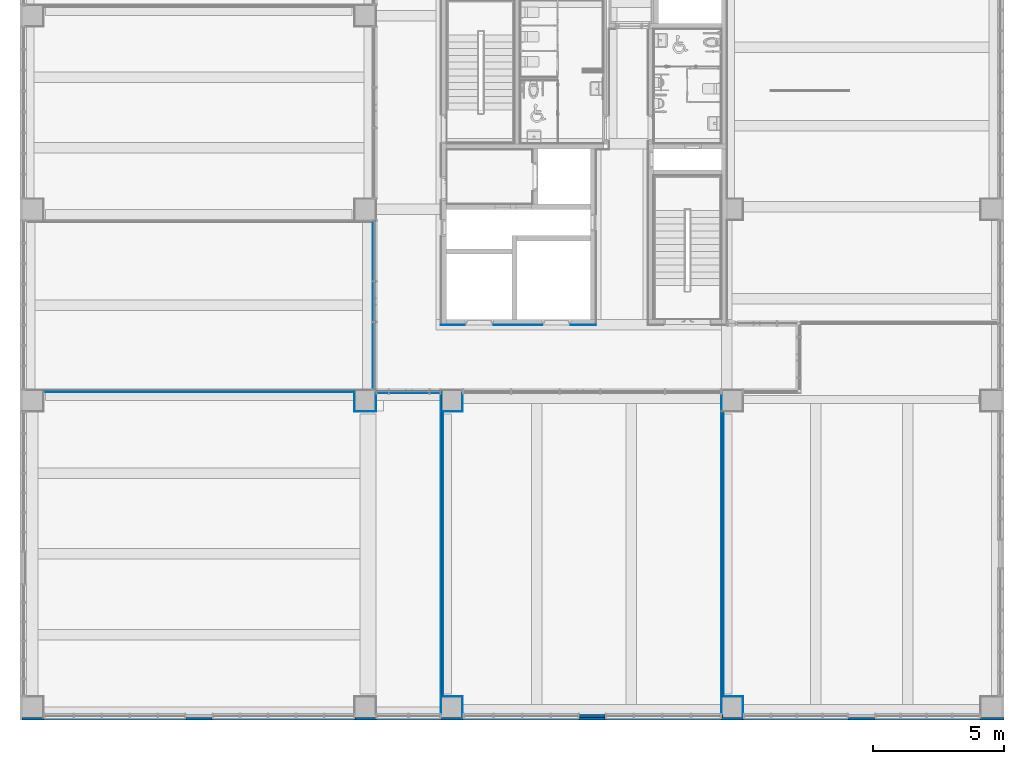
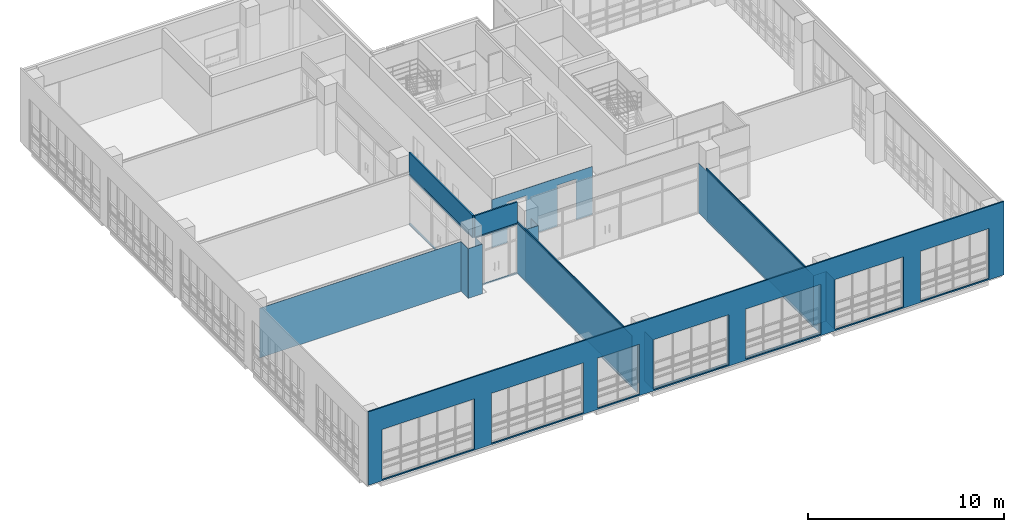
# One storey, part 46 of 74: 23 walls, 23 openings.
"""IFC2X3 building model written with IfcOpenShell, lengths in millimetres."""

from ifc_helpers import new_model, entity, si_unit, converted_unit, derived_unit, direction, frame, frame_2d, origin, origin_2d_with_axis, place, context, subcontext, project, spatial, polyline, rectangle, extrude, clip, bounded_halfspace, material, layer, layer_set, layer_usage, type_object, element, save


model = new_model("IFC2X3")

# Units and contexts
model_context = context("Model", 3, precision=0.01, world=origin(), true_north=direction((6.123031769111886e-17, 1.0)))
body_context = subcontext(model_context, "Body", "Model", "MODEL_VIEW")
ifc_project = project(units=[si_unit("LENGTHUNIT", "METRE", prefix="MILLI"), si_unit("AREAUNIT", "SQUARE_METRE"), si_unit("VOLUMEUNIT", "CUBIC_METRE"), converted_unit("PLANEANGLEUNIT", "DEGREE", entity("IfcRatioMeasure", 0.017453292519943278), si_unit("PLANEANGLEUNIT", "RADIAN"), dimensions=[0, 0, 0, 0, 0, 0, 0]), si_unit("MASSUNIT", "GRAM", prefix="KILO"), derived_unit("MASSDENSITYUNIT", [(si_unit("MASSUNIT", "GRAM", prefix="KILO"), 1), (si_unit("LENGTHUNIT", "METRE"), -3)]), derived_unit("MOMENTOFINERTIAUNIT", [(si_unit("LENGTHUNIT", "METRE"), 4)]), si_unit("TIMEUNIT", "SECOND"), si_unit("FREQUENCYUNIT", "HERTZ"), si_unit("THERMODYNAMICTEMPERATUREUNIT", "DEGREE_CELSIUS"), derived_unit("THERMALTRANSMITTANCEUNIT", [(si_unit("MASSUNIT", "GRAM", prefix="KILO"), 1), (si_unit("THERMODYNAMICTEMPERATUREUNIT", "KELVIN"), -1), (si_unit("TIMEUNIT", "SECOND"), -3)]), derived_unit("VOLUMETRICFLOWRATEUNIT", [(si_unit("LENGTHUNIT", "METRE"), 3), (si_unit("TIMEUNIT", "SECOND"), -1)]), derived_unit("MASSFLOWRATEUNIT", [(si_unit("MASSUNIT", "GRAM", prefix="KILO"), 1), (si_unit("TIMEUNIT", "SECOND"), -1)]), derived_unit("ROTATIONALFREQUENCYUNIT", [(si_unit("TIMEUNIT", "SECOND"), -1)]), si_unit("ELECTRICCURRENTUNIT", "AMPERE"), si_unit("ELECTRICVOLTAGEUNIT", "VOLT"), si_unit("POWERUNIT", "WATT"), si_unit("FORCEUNIT", "NEWTON", prefix="KILO"), si_unit("ILLUMINANCEUNIT", "LUX"), si_unit("LUMINOUSFLUXUNIT", "LUMEN"), si_unit("LUMINOUSINTENSITYUNIT", "CANDELA"), derived_unit("USERDEFINED", [(si_unit("MASSUNIT", "GRAM", prefix="KILO"), -1), (si_unit("LENGTHUNIT", "METRE"), -2), (si_unit("TIMEUNIT", "SECOND"), 3), (si_unit("LUMINOUSFLUXUNIT", "LUMEN"), 1)]), derived_unit("SOUNDPOWERUNIT", [(si_unit("MASSUNIT", "GRAM", prefix="KILO"), 1), (si_unit("LENGTHUNIT", "METRE"), 2), (si_unit("TIMEUNIT", "SECOND"), -3)]), derived_unit("SOUNDPRESSUREUNIT", [(si_unit("MASSUNIT", "GRAM", prefix="KILO"), 1), (si_unit("LENGTHUNIT", "METRE"), -1), (si_unit("TIMEUNIT", "SECOND"), -2)]), derived_unit("LINEARVELOCITYUNIT", [(si_unit("LENGTHUNIT", "METRE"), 1), (si_unit("TIMEUNIT", "SECOND"), -1)]), si_unit("PRESSUREUNIT", "PASCAL"), derived_unit("USERDEFINED", [(si_unit("LENGTHUNIT", "METRE"), -2), (si_unit("MASSUNIT", "GRAM", prefix="KILO"), 1), (si_unit("TIMEUNIT", "SECOND"), -2)]), derived_unit("LINEARFORCEUNIT", [(si_unit("MASSUNIT", "GRAM", prefix="KILO"), 1), (si_unit("LENGTHUNIT", "METRE"), 1), (si_unit("TIMEUNIT", "SECOND"), -2), (si_unit("LENGTHUNIT", "METRE"), -1)]), derived_unit("PLANARFORCEUNIT", [(si_unit("MASSUNIT", "GRAM", prefix="KILO"), 1), (si_unit("LENGTHUNIT", "METRE"), 1), (si_unit("TIMEUNIT", "SECOND"), -2), (si_unit("LENGTHUNIT", "METRE"), -2)])], contexts=[model_context])

# Site, building, storey
site_placement = place(None, frame((-14167.972527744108, -657.2125860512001, 0.0)))
site = spatial("IfcSite", under=ifc_project, at=site_placement, Name="Default", CompositionType="ELEMENT")
building_placement = place(site_placement, origin())
building = spatial("IfcBuilding", under=site, at=building_placement, Name="Sample Building", CompositionType="ELEMENT")
storey_placement = place(building_placement, frame((0.0, 0.0, 4800.0)))
storey = spatial("IfcBuildingStorey", under=building, at=storey_placement, Name="지상 2층", CompositionType="ELEMENT", Elevation=4800.000000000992)

# Wall, openings
ifc_material_1 = material(Name="KBIMS-화강석 잔다듬")
ifc_layer_1 = layer(ifc_material_1, 80.0)
ifc_layer_set_1 = layer_set([ifc_layer_1], Name="기본 벽:WA313-화강석잔다듬 벽 (30, 건식50) 80mm")
ifc_layer_usage_1 = layer_usage(ifc_layer_set_1, "AXIS2", "POSITIVE", -40.0)
wall_type_1 = type_object("IfcWallType", Name="기본 벽:WA313-화강석잔다듬 벽 (30, 건식50) 80mm", PredefinedType="STANDARD", material=ifc_layer_set_1)
wall_1_placement = place(storey_placement, frame((14067.955105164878, 517.212195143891, -1.9340006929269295e-09)))
wall_1 = element("IfcWallStandardCase", 1, at=wall_1_placement, inside=storey, type_object=wall_type_1, material=ifc_layer_usage_1, Name="기본 벽:WA313-화강석잔다듬 벽 (30, 건식50) 80mm", ObjectType="기본 벽:WA313-화강석잔다듬 벽 (30, 건식50) 80mm", context=body_context, shape_type="SweptSolid", body=[
    extrude(rectangle(XDim=37480.0087237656, YDim=80.00000000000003, at=frame_2d((18740.0043618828, -2.1316282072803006e-14), x_axis=(-1.0, 0.0))), origin(), (0.0, 0.0, 1.0), 4580.0000000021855),
])
opening_1_placement = place(wall_1_placement, origin())
element("IfcOpeningElement", 2, at=opening_1_placement, cuts=wall_1, Name="기본 벽:WA313-화강석잔다듬 벽 (30, 건식50) 80mm", ObjectType="Opening", context=body_context, shape_type="SweptSolid", body=[
    extrude(rectangle(XDim=3120.0000000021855, YDim=5432.026031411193, at=frame_2d((-5.684341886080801e-13, -1.1368683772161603e-12), x_axis=(1.0, 0.0))), frame((3534.0303650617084, -192.40000000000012, 1640.0), z_axis=(0.0, 1.0, 0.0), x_axis=(0.0, 0.0, 1.0)), (0.0, 0.0, 1.0), 384.79999999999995),
])
opening_2_placement = place(wall_1_placement, origin())
element("IfcOpeningElement", 3, at=opening_2_placement, cuts=wall_1, Name="기본 벽:WA313-화강석잔다듬 벽 (30, 건식50) 80mm", ObjectType="Opening", context=body_context, shape_type="SweptSolid", body=[
    extrude(rectangle(XDim=3120.0000000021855, YDim=5450.114959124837, at=frame_2d((-5.684341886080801e-13, 0.0), x_axis=(1.0, 0.0))), frame((9974.959906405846, -192.40000000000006, 1640.0), z_axis=(0.0, 1.0, 0.0), x_axis=(0.0, 0.0, 1.0)), (0.0, 0.0, 1.0), 384.7999999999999),
])
opening_3_placement = place(wall_1_placement, origin())
element("IfcOpeningElement", 4, at=opening_3_placement, cuts=wall_1, Name="기본 벽:WA313-화강석잔다듬 벽 (30, 건식50) 80mm", ObjectType="Opening", context=body_context, shape_type="SweptSolid", body=[
    extrude(rectangle(XDim=3120.0000000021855, YDim=2499.999972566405, at=frame_2d((-5.684341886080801e-13, 0.0), x_axis=(1.0, 0.0))), frame((14750.017372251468, -192.40000000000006, 1640.0), z_axis=(0.0, 1.0, 0.0), x_axis=(0.0, 0.0, 1.0)), (0.0, 0.0, 1.0), 384.7999999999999),
])
opening_4_placement = place(wall_1_placement, origin())
element("IfcOpeningElement", 5, at=opening_4_placement, cuts=wall_1, Name="기본 벽:WA313-화강석잔다듬 벽 (30, 건식50) 80mm", ObjectType="Opening", context=body_context, shape_type="SweptSolid", body=[
    extrude(rectangle(XDim=3120.0000000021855, YDim=4457.266159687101, at=frame_2d((-5.684341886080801e-13, 0.0), x_axis=(1.0, 0.0))), frame((19046.650438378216, -192.40000000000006, 1640.0), z_axis=(0.0, 1.0, 0.0), x_axis=(0.0, 0.0, 1.0)), (0.0, 0.0, 1.0), 384.7999999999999),
])
opening_5_placement = place(wall_1_placement, origin())
element("IfcOpeningElement", 6, at=opening_5_placement, cuts=wall_1, Name="기본 벽:WA313-화강석잔다듬 벽 (30, 건식50) 80mm", ObjectType="Opening", context=body_context, shape_type="SweptSolid", body=[
    extrude(rectangle(XDim=3120.0000000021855, YDim=4449.824972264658, at=frame_2d((-5.684341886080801e-13, 0.0), x_axis=(1.0, 0.0))), frame((24475.104899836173, -192.40000000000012, 1640.0), z_axis=(0.0, 1.0, 0.0), x_axis=(0.0, 0.0, 1.0)), (0.0, 0.0, 1.0), 384.7999999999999),
])
opening_6_placement = place(wall_1_placement, origin())
element("IfcOpeningElement", 7, at=opening_6_placement, cuts=wall_1, Name="기본 벽:WA313-화강석잔다듬 벽 (30, 건식50) 80mm", ObjectType="Opening", context=body_context, shape_type="SweptSolid", body=[
    extrude(rectangle(XDim=3120.0000000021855, YDim=4026.098781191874, at=frame_2d((-5.684341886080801e-13, 0.0), x_axis=(1.0, 0.0))), frame((29531.066776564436, -192.40000000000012, 1640.0), z_axis=(0.0, 1.0, 0.0), x_axis=(0.0, 0.0, 1.0)), (0.0, 0.0, 1.0), 384.8000000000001),
])
opening_7_placement = place(wall_1_placement, origin())
element("IfcOpeningElement", 8, at=opening_7_placement, cuts=wall_1, Name="기본 벽:WA313-화강석잔다듬 벽 (30, 건식50) 80mm", ObjectType="Opening", context=body_context, shape_type="SweptSolid", body=[
    extrude(rectangle(XDim=3120.0000000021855, YDim=4039.1588810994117, at=frame_2d((-5.684341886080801e-13, 0.0), x_axis=(1.0, 0.0))), frame((34562.44664175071, -192.40000000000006, 1640.0), z_axis=(0.0, 1.0, 0.0), x_axis=(0.0, 0.0, 1.0)), (0.0, 0.0, 1.0), 384.7999999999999),
])

# Walls
ifc_material_2 = material(Name="KBIMS-DRY WALL")
ifc_layer_2 = layer(ifc_material_2, 12.5)
ifc_material_3 = material(Name="KBIMS-경량철골벽틀")
ifc_layer_3 = layer(ifc_material_3, 50.0)
ifc_layer_set_2 = layer_set([ifc_layer_2, ifc_layer_3], Name="기본 벽:WA731-DRY WALL(C50, GS12.5mm) (1겹한면, GW50mm) 62.5mm")
ifc_layer_usage_2 = layer_usage(ifc_layer_set_2, "AXIS2", "NEGATIVE", 31.250000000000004)
wall_type_2 = type_object("IfcWallType", Name="기본 벽:WA731-DRY WALL(C50, GS12.5mm) (1겹한면, GW50mm) 62.5mm", PredefinedType="STANDARD", material=ifc_layer_set_2)
wall_2_placement = place(storey_placement, frame((30099.22246369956, 13012.212307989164, -1.9334592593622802e-09), z_axis=(0.0, 0.0, 1.0), x_axis=(0.0, -1.0, 0.0)))
element("IfcWallStandardCase", 9, at=wall_2_placement, inside=storey, type_object=wall_type_2, material=ifc_layer_usage_2, Name="기본 벽:WA731-DRY WALL(C50, GS12.5mm) (1겹한면, GW50mm) 62.5mm", ObjectType="기본 벽:WA731-DRY WALL(C50, GS12.5mm) (1겹한면, GW50mm) 62.5mm", context=body_context, shape_type="SweptSolid", body=[
    extrude(rectangle(XDim=11655.000421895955, YDim=62.499999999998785, at=frame_2d((5827.500210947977, 2.170708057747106e-12), x_axis=(-1.0, 0.0))), origin(), (0.0, 0.0, 1.0), 3300.000000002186),
])
ifc_layer_usage_3 = layer_usage(ifc_layer_set_2, "AXIS2", "NEGATIVE", 31.250000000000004)
wall_3_placement = place(storey_placement, frame((40799.20514177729, 12239.212307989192, -1.9334592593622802e-09), z_axis=(0.0, 0.0, 1.0), x_axis=(0.0, -1.0, 0.0)))
element("IfcWallStandardCase", 10, at=wall_3_placement, inside=storey, type_object=wall_type_2, material=ifc_layer_usage_3, Name="기본 벽:WA731-DRY WALL(C50, GS12.5mm) (1겹한면, GW50mm) 62.5mm", ObjectType="기본 벽:WA731-DRY WALL(C50, GS12.5mm) (1겹한면, GW50mm) 62.5mm", context=body_context, shape_type="SweptSolid", body=[
    extrude(rectangle(XDim=10882.000421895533, YDim=62.50000000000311, at=frame_2d((5441.000210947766, -4.344968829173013e-12), x_axis=(-1.0, 0.0))), origin(), (0.0, 0.0, 1.0), 3300.000000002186),
])

# Wall, openings
ifc_material_4 = material(Name="KBIMS-시멘트 벽돌")
ifc_layer_4 = layer(ifc_material_4, 90.0)
ifc_layer_set_3 = layer_set([ifc_layer_4], Name="기본 벽:WA211-시멘트벽돌(일반) 벽 (0.5B) 90mm")
ifc_layer_usage_4 = layer_usage(ifc_layer_set_3, "AXIS2", "POSITIVE", -45.0)
wall_type_3 = type_object("IfcWallType", Name="기본 벽:WA211-시멘트벽돌(일반) 벽 (0.5B) 90mm", PredefinedType="STANDARD", material=ifc_layer_set_3)
wall_4_placement = place(storey_placement, frame((30067.95511434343, 13012.212307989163, -1.9340006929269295e-09), z_axis=(0.0, 0.0, 1.0), x_axis=(-1.0, 0.0, 0.0)))
wall_4 = element("IfcWallStandardCase", 11, at=wall_4_placement, inside=storey, type_object=wall_type_3, material=ifc_layer_usage_4, Name="기본 벽:WA211-시멘트벽돌(일반) 벽 (0.5B) 90mm", ObjectType="기본 벽:WA211-시멘트벽돌(일반) 벽 (0.5B) 90mm", context=body_context, shape_type="SweptSolid", body=[
    extrude(rectangle(XDim=2499.974799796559, YDim=89.99999999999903, at=frame_2d((1249.9873998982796, 7.602807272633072e-13), x_axis=(-1.0, 0.0))), origin(), (0.0, 0.0, 1.0), 4500.0000000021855),
])
opening_8_placement = place(wall_4_placement, origin())
element("IfcOpeningElement", 12, at=opening_8_placement, cuts=wall_4, Name="기본 벽:WA211-시멘트벽돌(일반) 벽 (0.5B) 90mm", ObjectType="Opening", context=body_context, shape_type="SweptSolid", body=[
    extrude(rectangle(XDim=3020.000000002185, YDim=2499.9747997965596, at=frame_2d((0.0, 2.1600499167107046e-12), x_axis=(1.0, 0.0))), frame((1249.9873998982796, -197.4000000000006, 1590.0), z_axis=(0.0, 1.0, 0.0), x_axis=(0.0, 0.0, 1.0)), (0.0, 0.0, 1.0), 394.79999999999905),
])
opening_9_placement = place(wall_4_placement, origin())
element("IfcOpeningElement", 13, at=opening_9_placement, cuts=wall_4, Name="기본 벽:WA211-시멘트벽돌(일반) 벽 (0.5B) 90mm", ObjectType="Opening", context=body_context, shape_type="SweptSolid", body=[
    extrude(rectangle(XDim=3020.000000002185, YDim=9899.999999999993, at=frame_2d((-4.547473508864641e-12, 0.0), x_axis=(0.0, 1.0))), frame((-5750.017376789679, -197.39999999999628, 1590.0), z_axis=(0.0, 1.0, 0.0), x_axis=(-1.0, 0.0, 0.0)), (0.0, 0.0, 1.0), 394.79999999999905),
])
opening_10_placement = place(wall_4_placement, origin())
element("IfcOpeningElement", 14, at=opening_10_placement, cuts=wall_4, Name="기본 벽:WA211-시멘트벽돌(일반) 벽 (0.5B) 90mm", ObjectType="Opening", context=body_context, shape_type="SweptSolid", body=[
    extrude(rectangle(XDim=3020.000000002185, YDim=2217.999999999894, at=frame_2d((0.0, 0.0), x_axis=(0.0, 1.0))), frame((-12609.017376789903, -197.4000000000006, 1590.0), z_axis=(0.0, 1.0, 0.0), x_axis=(-1.0, 0.0, 0.0)), (0.0, 0.0, 1.0), 394.79999999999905),
])

ifc_layer_usage_5 = layer_usage(ifc_layer_set_3, "AXIS2", "NEGATIVE", 45.0)
wall_5_placement = place(storey_placement, frame((27522.972491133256, 19557.1776243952, -1.9340006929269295e-09), z_axis=(0.0, 0.0, 1.0), x_axis=(0.0, -1.0, 0.0)))
wall_5 = element("IfcWallStandardCase", 15, at=wall_5_placement, inside=storey, type_object=wall_type_3, material=ifc_layer_usage_5, Name="기본 벽:WA211-시멘트벽돌(일반) 벽 (0.5B) 90mm", ObjectType="기본 벽:WA211-시멘트벽돌(일반) 벽 (0.5B) 90mm", context=body_context, shape_type="SweptSolid", body=[
    extrude(rectangle(XDim=6499.965316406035, YDim=90.0000000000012, at=frame_2d((3249.9826582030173, -1.63069557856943e-12), x_axis=(-1.0, 0.0))), origin(), (0.0, 0.0, 1.0), 4500.0000000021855),
])
opening_11_placement = place(wall_5_placement, origin())
element("IfcOpeningElement", 16, at=opening_11_placement, cuts=wall_5, Name="기본 벽:WA211-시멘트벽돌(일반) 벽 (0.5B) 90mm", ObjectType="Opening", context=body_context, shape_type="SweptSolid", body=[
    extrude(rectangle(XDim=3020.000000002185, YDim=6500.0, at=frame_2d((0.0, 2.0463630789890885e-12), x_axis=(1.0, 0.0))), frame((3249.9653164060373, -197.4000000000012, 1590.0), z_axis=(0.0, 1.0, 0.0), x_axis=(0.0, 0.0, 1.0)), (0.0, 0.0, 1.0), 394.8000000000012),
])
opening_12_placement = place(wall_5_placement, origin())
element("IfcOpeningElement", 17, at=opening_12_placement, cuts=wall_5, Name="기본 벽:WA211-시멘트벽돌(일반) 벽 (0.5B) 90mm", ObjectType="Opening", context=body_context, shape_type="SweptSolid", body=[
    extrude(rectangle(XDim=3020.000000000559, YDim=2749.9996891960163, at=frame_2d((0.0, -2.1600499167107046e-12), x_axis=(1.0, 0.0))), frame((-9575.034806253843, -197.4000000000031, 1590.0), z_axis=(0.0, 1.0, 0.0), x_axis=(0.0, 0.0, 1.0)), (0.0, 0.0, 1.0), 394.8000000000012),
])
opening_13_placement = place(wall_5_placement, origin())
element("IfcOpeningElement", 18, at=opening_13_placement, cuts=wall_5, Name="기본 벽:WA211-시멘트벽돌(일반) 벽 (0.5B) 90mm", ObjectType="Opening", context=body_context, shape_type="SweptSolid", body=[
    extrude(rectangle(XDim=3020.000000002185, YDim=6599.999999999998, at=origin_2d_with_axis()), frame((-4100.034683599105, -197.40000000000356, 1590.0), z_axis=(0.0, 1.0, 0.0), x_axis=(0.0, 0.0, 1.0)), (0.0, 0.0, 1.0), 394.8000000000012),
])

ifc_material_5 = material(Name="KBIMS-콘크리트")
ifc_layer_5 = layer(ifc_material_5, 125.00000000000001)
ifc_layer_set_4 = layer_set([ifc_layer_5], Name="기본 벽:WA111-철근콘크리트구조 벽 125mm_W3")
ifc_layer_usage_6 = layer_usage(ifc_layer_set_4, "AXIS2", "NEGATIVE", 62.50000000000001)
wall_type_4 = type_object("IfcWallType", Name="기본 벽:WA111-철근콘크리트구조 벽 125mm_W3", PredefinedType="STANDARD", material=ifc_layer_set_4)
wall_6_placement = place(storey_placement, frame((30885.972463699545, 619.7122951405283, -1.9340006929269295e-09)))
wall_6 = element("IfcWallStandardCase", 19, at=wall_6_placement, inside=storey, type_object=wall_type_4, material=ifc_layer_usage_6, Name="기본 벽:WA111-철근콘크리트구조 벽 125mm_W3", ObjectType="기본 벽:WA111-철근콘크리트구조 벽 125mm_W3", context=body_context, shape_type="Clipping", body=[
    clip(extrude(rectangle(XDim=9932.000027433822, YDim=124.99999999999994, at=frame_2d((4966.000013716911, 0.0), x_axis=(-1.0, 0.0))), origin(), (0.0, 0.0, 1.0), 4350.000000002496), bounded_halfspace(frame((0.0, -62.50000000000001, 4350.0), z_axis=(0.0, 0.0, -1.0), x_axis=(0.0, -1.0, 0.0)), True, frame((0.0, -62.50000000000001, 4350.0), z_axis=(0.0, 0.0, -1.0), x_axis=(0.0, -1.0, 0.0)), polyline([(0.0, 0.0), (-38100.0, 0.0), (-38100.0, -3012028.32027809), (-38100.0, -3027273.608361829), (-1.1199011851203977e-08, -3027273.608361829), (0.0, 0.0)]))),
])
opening_14_placement = place(wall_6_placement, origin())
element("IfcOpeningElement", 20, at=opening_14_placement, cuts=wall_6, Name="기본 벽:WA111-철근콘크리트구조 벽 125mm_W3", ObjectType="Opening", context=body_context, shape_type="SweptSolid", body=[
    extrude(rectangle(XDim=3120.0000000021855, YDim=4457.266159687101, at=frame_2d((-5.684341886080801e-13, 0.0), x_axis=(1.0, 0.0))), frame((2228.6330798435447, -214.89999999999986, 1640.0), z_axis=(0.0, 1.0, 0.0), x_axis=(0.0, 0.0, 1.0)), (0.0, 0.0, 1.0), 429.8000000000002),
])
opening_15_placement = place(wall_6_placement, origin())
element("IfcOpeningElement", 21, at=opening_15_placement, cuts=wall_6, Name="기본 벽:WA111-철근콘크리트구조 벽 125mm_W3", ObjectType="Opening", context=body_context, shape_type="SweptSolid", body=[
    extrude(rectangle(XDim=3120.0000000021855, YDim=4449.824972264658, at=frame_2d((-5.684341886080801e-13, 0.0), x_axis=(1.0, 0.0))), frame((7657.087541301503, -214.89999999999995, 1640.0), z_axis=(0.0, 1.0, 0.0), x_axis=(0.0, 0.0, 1.0)), (0.0, 0.0, 1.0), 429.8000000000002),
])

ifc_material_6 = material(Name="WA611-수성페인트 (내부) 벽 (3회)")
ifc_layer_6 = layer(ifc_material_6, 1.0)
ifc_material_7 = material(Name="WA551-시멘트모르타르 (내부) 벽 18mm")
ifc_layer_7 = layer(ifc_material_7, 16.0)
ifc_material_8 = material(Name="WA555-콘크리트면정리 벽 (내부)")
ifc_layer_8 = layer(ifc_material_8, 1.0)
ifc_layer_set_5 = layer_set([ifc_layer_6, ifc_layer_7, ifc_layer_8], Name="기본 벽:A1-32-06A-콘크리트면정리, 시멘트모르타르(미장용), 수성페인트(내부) (18mm)")
ifc_layer_usage_7 = layer_usage(ifc_layer_set_5, "AXIS2", "POSITIVE", -9.000000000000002)
wall_type_5 = type_object("IfcWallType", Name="기본 벽:A1-32-06A-콘크리트면정리, 시멘트모르타르(미장용), 수성페인트(내부) (18mm)", PredefinedType="STANDARD", material=ifc_layer_set_5)
wall_7_placement = place(storey_placement, frame((27468.972491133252, 19476.677624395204, 3100.0), z_axis=(0.0, 0.0, 1.0), x_axis=(0.0, -1.0, 0.0)))
wall_7 = element("IfcWallStandardCase", 22, at=wall_7_placement, inside=storey, type_object=wall_type_5, material=ifc_layer_usage_7, Name="기본 벽:A1-32-06A-콘크리트면정리, 시멘트모르타르(미장용), 수성페인트(내부) (18mm)", ObjectType="기본 벽:A1-32-06A-콘크리트면정리, 시멘트모르타르(미장용), 수성페인트(내부) (18mm)", context=body_context, shape_type="SweptSolid", body=[
    extrude(rectangle(XDim=6401.465316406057, YDim=18.00000000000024, at=frame_2d((3200.7326582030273, -1.63069557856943e-12), x_axis=(1.0, 0.0))), origin(), (0.0, 0.0, 1.0), 79.99999999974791),
])
opening_16_placement = place(wall_7_placement, origin())
element("IfcOpeningElement", 23, at=opening_16_placement, cuts=wall_7, Name="기본 벽:A1-32-06A-콘크리트면정리, 시멘트모르타르(미장용), 수성페인트(내부) (18mm)", ObjectType="Opening", context=body_context, shape_type="SweptSolid", body=[
    extrude(rectangle(XDim=3020.000000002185, YDim=6500.0, at=frame_2d((0.0, 2.0463630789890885e-12), x_axis=(1.0, 0.0))), frame((3169.465316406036, -161.40000000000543, -1510.0), z_axis=(0.0, 1.0, 0.0), x_axis=(0.0, 0.0, 1.0)), (0.0, 0.0, 1.0), 322.80000000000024),
])
opening_17_placement = place(wall_7_placement, origin())
element("IfcOpeningElement", 24, at=opening_17_placement, cuts=wall_7, Name="기본 벽:A1-32-06A-콘크리트면정리, 시멘트모르타르(미장용), 수성페인트(내부) (18mm)", ObjectType="Opening", context=body_context, shape_type="SweptSolid", body=[
    extrude(rectangle(XDim=3020.000000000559, YDim=2749.9996891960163, at=frame_2d((0.0, -2.1600499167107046e-12), x_axis=(1.0, 0.0))), frame((-9655.534806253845, -161.39999999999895, -1510.0), z_axis=(0.0, 1.0, 0.0), x_axis=(0.0, 0.0, 1.0)), (0.0, 0.0, 1.0), 322.80000000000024),
])
opening_18_placement = place(wall_7_placement, origin())
element("IfcOpeningElement", 25, at=opening_18_placement, cuts=wall_7, Name="기본 벽:A1-32-06A-콘크리트면정리, 시멘트모르타르(미장용), 수성페인트(내부) (18mm)", ObjectType="Opening", context=body_context, shape_type="SweptSolid", body=[
    extrude(rectangle(XDim=3020.000000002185, YDim=6599.999999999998, at=origin_2d_with_axis()), frame((-4180.534683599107, -161.40000000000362, -1510.0), z_axis=(0.0, 1.0, 0.0), x_axis=(0.0, 0.0, 1.0)), (0.0, 0.0, 1.0), 322.80000000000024),
])

# Walls
ifc_layer_usage_8 = layer_usage(ifc_layer_set_5, "AXIS2", "POSITIVE", -9.000000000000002)
wall_8_placement = place(storey_placement, frame((26758.972491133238, 12994.67762439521, 80.0), z_axis=(0.0, 0.0, 1.0), x_axis=(0.0, -1.0, 0.0)))
element("IfcWallStandardCase", 26, at=wall_8_placement, inside=storey, type_object=wall_type_5, material=ifc_layer_usage_8, Name="기본 벽:A1-32-06A-콘크리트면정리, 시멘트모르타르(미장용), 수성페인트(내부) (18mm)", ObjectType="기본 벽:A1-32-06A-콘크리트면정리, 시멘트모르타르(미장용), 수성페인트(내부) (18mm)", context=body_context, shape_type="SweptSolid", body=[
    extrude(rectangle(XDim=755.4653164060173, YDim=18.00000000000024, at=frame_2d((377.73265820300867, -2.1662671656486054e-12), x_axis=(-1.0, 0.0))), origin(), (0.0, 0.0, 1.0), 3100.0000000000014),
])
ifc_layer_usage_9 = layer_usage(ifc_layer_set_5, "AXIS2", "POSITIVE", -9.000000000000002)
wall_9_placement = place(storey_placement, frame((26767.972491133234, 12248.212307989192, 80.0)))
element("IfcWallStandardCase", 27, at=wall_9_placement, inside=storey, type_object=wall_type_5, material=ifc_layer_usage_9, Name="기본 벽:A1-32-06A-콘크리트면정리, 시멘트모르타르(미장용), 수성페인트(내부) (18mm)", ObjectType="기본 벽:A1-32-06A-콘크리트면정리, 시멘트모르타르(미장용), 수성페인트(내부) (18mm)", context=body_context, shape_type="SweptSolid", body=[
    extrude(rectangle(XDim=818.0000000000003, YDim=18.000000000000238, at=frame_2d((409.00000000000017, -2.0250467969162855e-13), x_axis=(-1.0, 0.0))), origin(), (0.0, 0.0, 1.0), 3100.0000000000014),
])
ifc_layer_usage_10 = layer_usage(ifc_layer_set_5, "AXIS2", "POSITIVE", -9.000000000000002)
wall_10_placement = place(storey_placement, frame((27576.972491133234, 12257.21230798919, 80.0), z_axis=(0.0, 0.0, 1.0), x_axis=(0.0, 1.0, 0.0)))
element("IfcWallStandardCase", 28, at=wall_10_placement, inside=storey, type_object=wall_type_5, material=ifc_layer_usage_10, Name="기본 벽:A1-32-06A-콘크리트면정리, 시멘트모르타르(미장용), 수성페인트(내부) (18mm)", ObjectType="기본 벽:A1-32-06A-콘크리트면정리, 시멘트모르타르(미장용), 수성페인트(내부) (18mm)", context=body_context, shape_type="SweptSolid", body=[
    extrude(rectangle(XDim=709.999999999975, YDim=18.00000000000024, at=frame_2d((354.9999999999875, -2.1662671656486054e-12), x_axis=(-1.0, 0.0))), origin(), (0.0, 0.0, 1.0), 3100.0000000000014),
])

# Wall, openings
ifc_layer_usage_11 = layer_usage(ifc_layer_set_5, "AXIS2", "POSITIVE", -9.000000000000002)
wall_11_placement = place(storey_placement, frame((27585.972491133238, 12958.212307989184, 3100.0)))
wall_11 = element("IfcWallStandardCase", 29, at=wall_11_placement, inside=storey, type_object=wall_type_5, material=ifc_layer_usage_11, Name="기본 벽:A1-32-06A-콘크리트면정리, 시멘트모르타르(미장용), 수성페인트(내부) (18mm)", ObjectType="기본 벽:A1-32-06A-콘크리트면정리, 시멘트모르타르(미장용), 수성페인트(내부) (18mm)", context=body_context, shape_type="SweptSolid", body=[
    extrude(rectangle(XDim=2463.9999725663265, YDim=18.000000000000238, at=frame_2d((1231.9999862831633, 0.0), x_axis=(1.0, 0.0))), origin(), (0.0, 0.0, 1.0), 79.99999999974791),
])
opening_19_placement = place(wall_11_placement, origin())
element("IfcOpeningElement", 30, at=opening_19_placement, cuts=wall_11, Name="기본 벽:A1-32-06A-콘크리트면정리, 시멘트모르타르(미장용), 수성페인트(내부) (18mm)", ObjectType="Opening", context=body_context, shape_type="SweptSolid", body=[
    extrude(rectangle(XDim=3020.000000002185, YDim=2499.9747997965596, at=frame_2d((-2.1600499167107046e-12, 0.0), x_axis=(0.0, 1.0))), frame((1231.9952233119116, -161.40000000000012, -1510.0), z_axis=(0.0, 1.0, 0.0), x_axis=(-1.0, 0.0, 0.0)), (0.0, 0.0, 1.0), 322.80000000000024),
])
opening_20_placement = place(wall_11_placement, origin())
element("IfcOpeningElement", 31, at=opening_20_placement, cuts=wall_11, Name="기본 벽:A1-32-06A-콘크리트면정리, 시멘트모르타르(미장용), 수성페인트(내부) (18mm)", ObjectType="Opening", context=body_context, shape_type="SweptSolid", body=[
    extrude(rectangle(XDim=3020.000000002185, YDim=9899.999999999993, at=origin_2d_with_axis()), frame((8232.0, -161.40000000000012, -1510.0), z_axis=(0.0, 1.0, 0.0), x_axis=(0.0, 0.0, 1.0)), (0.0, 0.0, 1.0), 322.80000000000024),
])
opening_21_placement = place(wall_11_placement, origin())
element("IfcOpeningElement", 32, at=opening_21_placement, cuts=wall_11, Name="기본 벽:A1-32-06A-콘크리트면정리, 시멘트모르타르(미장용), 수성페인트(내부) (18mm)", ObjectType="Opening", context=body_context, shape_type="SweptSolid", body=[
    extrude(rectangle(XDim=3020.000000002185, YDim=2217.999999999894, at=origin_2d_with_axis()), frame((15091.0, -161.40000000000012, -1510.0), z_axis=(0.0, 1.0, 0.0), x_axis=(0.0, 0.0, 1.0)), (0.0, 0.0, 1.0), 322.80000000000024),
])

# Walls
ifc_layer_usage_12 = layer_usage(ifc_layer_set_5, "AXIS2", "POSITIVE", -9.000000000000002)
wall_12_placement = place(storey_placement, frame((30058.972463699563, 12967.21230798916, 80.0), z_axis=(0.0, 0.0, 1.0), x_axis=(0.0, -1.0, 0.0)))
element("IfcWallStandardCase", 33, at=wall_12_placement, inside=storey, type_object=wall_type_5, material=ifc_layer_usage_12, Name="기본 벽:A1-32-06A-콘크리트면정리, 시멘트모르타르(미장용), 수성페인트(내부) (18mm)", ObjectType="기본 벽:A1-32-06A-콘크리트면정리, 시멘트모르타르(미장용), 수성페인트(내부) (18mm)", context=body_context, shape_type="SweptSolid", body=[
    extrude(rectangle(XDim=12285.000012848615, YDim=18.00000000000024, at=frame_2d((6142.500006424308, -2.2497559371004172e-12), x_axis=(-1.0, 0.0))), origin(), (0.0, 0.0, 1.0), 3100.0000000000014),
])
ifc_layer_usage_13 = layer_usage(ifc_layer_set_5, "AXIS2", "POSITIVE", -9.000000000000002)
wall_13_placement = place(storey_placement, frame((30130.472463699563, 12248.212307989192, 80.0)))
element("IfcWallStandardCase", 34, at=wall_13_placement, inside=storey, type_object=wall_type_5, material=ifc_layer_usage_13, Name="기본 벽:A1-32-06A-콘크리트면정리, 시멘트모르타르(미장용), 수성페인트(내부) (18mm)", ObjectType="기본 벽:A1-32-06A-콘크리트면정리, 시멘트모르타르(미장용), 수성페인트(내부) (18mm)", context=body_context, shape_type="SweptSolid", body=[
    extrude(rectangle(XDim=755.4999999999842, YDim=18.000000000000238, at=frame_2d((377.7499999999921, 0.0), x_axis=(-1.0, 0.0))), origin(), (0.0, 0.0, 1.0), 3100.0000000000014),
])
ifc_layer_usage_14 = layer_usage(ifc_layer_set_5, "AXIS2", "POSITIVE", -9.000000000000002)
wall_14_placement = place(storey_placement, frame((30876.972463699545, 12257.212307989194, 80.0), z_axis=(0.0, 0.0, 1.0), x_axis=(0.0, 1.0, 0.0)))
element("IfcWallStandardCase", 35, at=wall_14_placement, inside=storey, type_object=wall_type_5, material=ifc_layer_usage_14, Name="기본 벽:A1-32-06A-콘크리트면정리, 시멘트모르타르(미장용), 수성페인트(내부) (18mm)", ObjectType="기본 벽:A1-32-06A-콘크리트면정리, 시멘트모르타르(미장용), 수성페인트(내부) (18mm)", context=body_context, shape_type="SweptSolid", body=[
    extrude(rectangle(XDim=710.0002780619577, YDim=18.00000000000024, at=frame_2d((355.00013903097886, -2.1662671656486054e-12), x_axis=(-1.0, 0.0))), origin(), (0.0, 0.0, 1.0), 3100.0000000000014),
])
ifc_layer_usage_15 = layer_usage(ifc_layer_set_5, "AXIS2", "POSITIVE", -9.000000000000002)
wall_15_placement = place(storey_placement, frame((40758.95514177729, 12967.21258605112, 80.0), z_axis=(0.0, 0.0, 1.0), x_axis=(0.0, -1.0, 0.0)))
element("IfcWallStandardCase", 36, at=wall_15_placement, inside=storey, type_object=wall_type_5, material=ifc_layer_usage_15, Name="기본 벽:A1-32-06A-콘크리트면정리, 시멘트모르타르(미장용), 수성페인트(내부) (18mm)", ObjectType="기본 벽:A1-32-06A-콘크리트면정리, 시멘트모르타르(미장용), 수성페인트(내부) (18mm)", context=body_context, shape_type="SweptSolid", body=[
    extrude(rectangle(XDim=12285.00029091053, YDim=17.999999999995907, at=frame_2d((6142.500145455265, 1.0391687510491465e-12), x_axis=(-1.0, 0.0))), origin(), (0.0, 0.0, 1.0), 3100.0000000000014),
])
ifc_layer_usage_16 = layer_usage(ifc_layer_set_5, "AXIS2", "POSITIVE", -9.000000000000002)
wall_16_placement = place(storey_placement, frame((30876.972463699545, 557.212295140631, 80.0), z_axis=(0.0, 0.0, 1.0), x_axis=(0.0, 1.0, 0.0)))
element("IfcWallStandardCase", 37, at=wall_16_placement, inside=storey, type_object=wall_type_5, material=ifc_layer_usage_16, Name="기본 벽:A1-32-06A-콘크리트면정리, 시멘트모르타르(미장용), 수성페인트(내부) (18mm)", ObjectType="기본 벽:A1-32-06A-콘크리트면정리, 시멘트모르타르(미장용), 수성페인트(내부) (18mm)", context=body_context, shape_type="SweptSolid", body=[
    extrude(rectangle(XDim=817.9995909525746, YDim=18.00000000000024, at=frame_2d((408.9997954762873, -2.1662671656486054e-12), x_axis=(-1.0, 0.0))), origin(), (0.0, 0.0, 1.0), 3100.0000000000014),
])
ifc_layer_usage_17 = layer_usage(ifc_layer_set_5, "AXIS2", "POSITIVE", -9.000000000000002)
wall_17_placement = place(storey_placement, frame((30867.972463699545, 1366.2118860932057, 80.0), z_axis=(0.0, 0.0, 1.0), x_axis=(-1.0, 0.0, 0.0)))
element("IfcWallStandardCase", 38, at=wall_17_placement, inside=storey, type_object=wall_type_5, material=ifc_layer_usage_17, Name="기본 벽:A1-32-06A-콘크리트면정리, 시멘트모르타르(미장용), 수성페인트(내부) (18mm)", ObjectType="기본 벽:A1-32-06A-콘크리트면정리, 시멘트모르타르(미장용), 수성페인트(내부) (18mm)", context=body_context, shape_type="SweptSolid", body=[
    extrude(rectangle(XDim=719.6534135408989, YDim=17.999999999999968, at=frame_2d((359.82670677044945, 1.3500311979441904e-13), x_axis=(-1.0, 0.0))), origin(), (0.0, 0.0, 1.0), 3100.0000000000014),
])
ifc_layer_usage_18 = layer_usage(ifc_layer_set_5, "AXIS2", "POSITIVE", -9.000000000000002)
wall_18_placement = place(storey_placement, frame((41576.972491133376, 557.2122951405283, 80.0), z_axis=(0.0, 0.0, 1.0), x_axis=(0.0, 1.0, 0.0)))
element("IfcWallStandardCase", 39, at=wall_18_placement, inside=storey, type_object=wall_type_5, material=ifc_layer_usage_18, Name="기본 벽:A1-32-06A-콘크리트면정리, 시멘트모르타르(미장용), 수성페인트(내부) (18mm)", ObjectType="기본 벽:A1-32-06A-콘크리트면정리, 시멘트모르타르(미장용), 수성페인트(내부) (18mm)", context=body_context, shape_type="SweptSolid", body=[
    extrude(rectangle(XDim=817.9995909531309, YDim=17.999999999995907, at=frame_2d((408.9997954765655, 0.0), x_axis=(-1.0, 0.0))), origin(), (0.0, 0.0, 1.0), 3100.0000000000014),
])
ifc_layer_usage_19 = layer_usage(ifc_layer_set_5, "AXIS2", "POSITIVE", -9.000000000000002)
wall_19_placement = place(storey_placement, frame((41567.97249113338, 1366.2118860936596, 80.0), z_axis=(0.0, 0.0, 1.0), x_axis=(-1.0, 0.0, 0.0)))
element("IfcWallStandardCase", 40, at=wall_19_placement, inside=storey, type_object=wall_type_5, material=ifc_layer_usage_19, Name="기본 벽:A1-32-06A-콘크리트면정리, 시멘트모르타르(미장용), 수성페인트(내부) (18mm)", ObjectType="기본 벽:A1-32-06A-콘크리트면정리, 시멘트모르타르(미장용), 수성페인트(내부) (18mm)", context=body_context, shape_type="SweptSolid", body=[
    extrude(rectangle(XDim=737.517349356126, YDim=17.999999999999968, at=frame_2d((368.758674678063, 1.3500311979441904e-13), x_axis=(-1.0, 0.0))), origin(), (0.0, 0.0, 1.0), 3100.0000000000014),
])
ifc_layer_usage_20 = layer_usage(ifc_layer_set_5, "AXIS2", "POSITIVE", -9.000000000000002)
wall_20_placement = place(storey_placement, frame((14867.972454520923, 12985.67762439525, 80.0)))
element("IfcWallStandardCase", 41, at=wall_20_placement, inside=storey, type_object=wall_type_5, material=ifc_layer_usage_20, Name="기본 벽:A1-32-06A-콘크리트면정리, 시멘트모르타르(미장용), 수성페인트(내부) (18mm)", ObjectType="기본 벽:A1-32-06A-콘크리트면정리, 시멘트모르타르(미장용), 수성페인트(내부) (18mm)", context=body_context, shape_type="SweptSolid", body=[
    extrude(rectangle(XDim=11882.000036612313, YDim=18.00000000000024, at=frame_2d((5941.000018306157, 2.930988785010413e-14), x_axis=(-1.0, 0.0))), origin(), (0.0, 0.0, 1.0), 3100.0000000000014),
])
ifc_layer_usage_21 = layer_usage(ifc_layer_set_5, "AXIS2", "NEGATIVE", 9.000000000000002)
wall_21_placement = place(storey_placement, frame((30139.319050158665, 12239.212307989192, 80.0), z_axis=(0.0, 0.0, 1.0), x_axis=(0.0, -1.0, 0.0)))
element("IfcWallStandardCase", 42, at=wall_21_placement, inside=storey, type_object=wall_type_5, material=ifc_layer_usage_21, Name="기본 벽:A1-32-06A-콘크리트면정리, 시멘트모르타르(미장용), 수성페인트(내부) (18mm)", ObjectType="기본 벽:A1-32-06A-콘크리트면정리, 시멘트모르타르(미장용), 수성페인트(내부) (18mm)", context=body_context, shape_type="SweptSolid", body=[
    extrude(rectangle(XDim=10882.000421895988, YDim=18.00000000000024, at=frame_2d((5441.000210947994, -2.1520563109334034e-12), x_axis=(-1.0, 0.0))), origin(), (0.0, 0.0, 1.0), 3100.0000000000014),
])
ifc_layer_usage_22 = layer_usage(ifc_layer_set_5, "AXIS2", "NEGATIVE", 9.000000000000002)
wall_22_placement = place(storey_placement, frame((40839.45514177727, 12239.212307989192, 80.0), z_axis=(0.0, 0.0, 1.0), x_axis=(0.0, -1.0, 0.0)))
element("IfcWallStandardCase", 43, at=wall_22_placement, inside=storey, type_object=wall_type_5, material=ifc_layer_usage_22, Name="기본 벽:A1-32-06A-콘크리트면정리, 시멘트모르타르(미장용), 수성페인트(내부) (18mm)", ObjectType="기본 벽:A1-32-06A-콘크리트면정리, 시멘트모르타르(미장용), 수성페인트(내부) (18mm)", context=body_context, shape_type="SweptSolid", body=[
    extrude(rectangle(XDim=10864.000421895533, YDim=17.999999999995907, at=frame_2d((5432.000210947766, 0.0), x_axis=(-1.0, 0.0))), origin(), (0.0, 0.0, 1.0), 3100.0000000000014),
])

# Wall, openings
ifc_layer_usage_23 = layer_usage(ifc_layer_set_5, "AXIS2", "NEGATIVE", 9.000000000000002)
wall_23_placement = place(storey_placement, frame((35967.972491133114, 15544.302947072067, 80.0), z_axis=(0.0, 0.0, 1.0), x_axis=(-1.0, 0.0, 0.0)))
wall_23 = element("IfcWallStandardCase", 44, at=wall_23_placement, inside=storey, type_object=wall_type_5, material=ifc_layer_usage_23, Name="기본 벽:A1-32-06A-콘크리트면정리, 시멘트모르타르(미장용), 수성페인트(내부) (18mm)", ObjectType="기본 벽:A1-32-06A-콘크리트면정리, 시멘트모르타르(미장용), 수성페인트(내부) (18mm)", context=body_context, shape_type="SweptSolid", body=[
    extrude(rectangle(XDim=5918.008729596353, YDim=18.000000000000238, at=frame_2d((2959.0043647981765, 3.019806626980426e-14), x_axis=(1.0, 0.0))), origin(), (0.0, 0.0, 1.0), 3000.000000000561),
])
opening_22_placement = place(wall_23_placement, origin())
element("IfcOpeningElement", 45, at=opening_22_placement, cuts=wall_23, Name="기본 벽:A1-32-06A-콘크리트면정리, 시멘트모르타르(미장용), 수성페인트(내부) (18mm)", ObjectType="Opening", context=body_context, shape_type="SweptSolid", body=[
    extrude(rectangle(XDim=2549.999999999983, YDim=1100.0000000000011, at=frame_2d((0.0, 0.0), x_axis=(0.0, 1.0))), frame((4450.923225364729, -1733.0, 1275.0), z_axis=(0.0, 1.0, 0.0), x_axis=(-1.0, 0.0, 0.0)), (0.0, 0.0, 1.0), 3048.0),
])
opening_23_placement = place(wall_23_placement, origin())
element("IfcOpeningElement", 46, at=opening_23_placement, cuts=wall_23, Name="기본 벽:A1-32-06A-콘크리트면정리, 시멘트모르타르(미장용), 수성페인트(내부) (18mm)", ObjectType="Opening", context=body_context, shape_type="SweptSolid", body=[
    extrude(rectangle(XDim=2549.999999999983, YDim=1100.0000000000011, at=frame_2d((0.0, 0.0), x_axis=(0.0, 1.0))), frame((1499.999909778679, -1733.0, 1275.0), z_axis=(0.0, 1.0, 0.0), x_axis=(-1.0, 0.0, 0.0)), (0.0, 0.0, 1.0), 3048.0),
])

save(model, "model.ifc")
